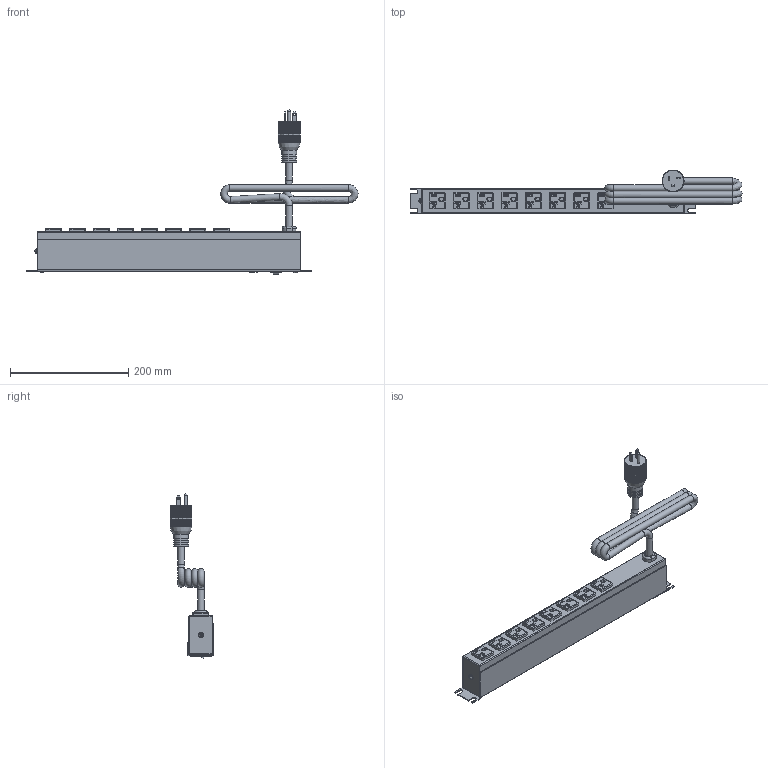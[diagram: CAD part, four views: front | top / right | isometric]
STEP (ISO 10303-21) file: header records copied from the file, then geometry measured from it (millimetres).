
FILE_DESCRIPTION((''),'2;1');
FILE_NAME('E:\Dutton\Manufacturing\drawings\Updated 2009\POWER BARS\1589 RR series\STEP''s\1589T8F1BKRR.stp','2010-01-12T10:20:39',('tfoster'),(''),'Autodesk Inventor 2010','Autodesk Inventor 2010','');
FILE_SCHEMA(('AUTOMOTIVE_DESIGN { 1 0 10303 214 1 1 1 1 }'));
Products named in the file (10): 1589T8F1BKRR; 1589H6 & H8 RR Front Panel; 1589H8 RR Back Plate; #6x0.5 type A; Reset Switch; toothwasher; round head 1-way 8-32 x 0.5 screw; 20 amp Cored; 20 Amp Receptacle; Pilot light
Assembly tree (19 placements, depth 2):
  1589T8F1BKRR
    1589H6 & H8 RR Front Panel
    1589H8 RR Back Plate
    #6x0.5 type A  x4
    Reset Switch
    toothwasher
    round head 1-way 8-32 x 0.5 screw
    20 amp Cored
    20 Amp Receptacle  x8
    Pilot light
Bounding box: 560.88 x 73.73 x 277.79 mm (x, y, z)
Volume: 458588.9 mm3; surface area: 322471.2 mm2
Topology: 19 solids, 19 shells, 1274 faces, 3658 edges, 2421 vertices
Faces by surface type: plane 876, cylinder 218, bspline 93, sphere 38, cone 33, torus 16
Full cylindrical faces by diameter (mm): 1.803 x3, 1.905 x2, 2.997 x4, 3.2 x2, 4.3 x1, 4.801 x1, 4.826 x1, 5.563 x4, 7.849 x1, 11 x4, 12.5 x1, 22.606 x2, 25.146 x3
Entity records: 28032 total; most frequent: CARTESIAN_POINT 8368, ORIENTED_EDGE 4228, DIRECTION 3711, EDGE_CURVE 2114, VERTEX_POINT 1437, VECTOR 1391, LINE 1391, AXIS2_PLACEMENT_3D 1160
